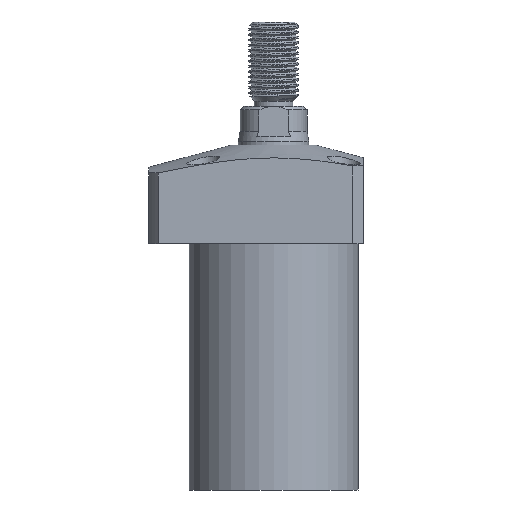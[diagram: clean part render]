
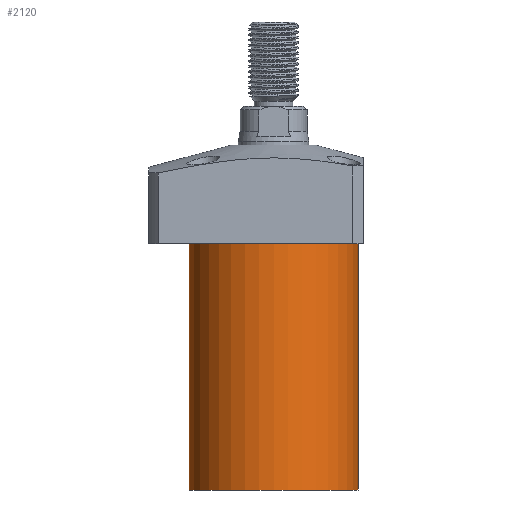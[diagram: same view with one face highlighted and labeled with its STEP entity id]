
A CAD part, front view. The second image highlights one B-rep face of the part: STEP entity #2120.
In plain terms, the highlighted cylindrical face has radius 24 mm (diameter 48 mm), a partial arc.
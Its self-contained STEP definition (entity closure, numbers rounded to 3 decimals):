
#21 = EDGE_CURVE ( 'NONE', #3575, #3759, #440, .T. ) ;
#83 = AXIS2_PLACEMENT_3D ( 'NONE', #3033, #652, #3085 ) ;
#258 = CARTESIAN_POINT ( 'NONE',  ( 24., 0., -84. ) ) ;
#317 = EDGE_LOOP ( 'NONE', ( #4966, #4312, #2981, #4641 ) ) ;
#440 = CIRCLE ( 'NONE', #576, 24. ) ;
#535 = DIRECTION ( 'NONE',  ( -1., 0., 0. ) ) ;
#554 = VECTOR ( 'NONE', #4699, 1000. ) ;
#576 = AXIS2_PLACEMENT_3D ( 'NONE', #1334, #2576, #535 ) ;
#652 = DIRECTION ( 'NONE',  ( 0., 0., -1. ) ) ;
#958 = CARTESIAN_POINT ( 'NONE',  ( 0., 0., -84. ) ) ;
#967 = EDGE_CURVE ( 'NONE', #3575, #3578, #4884, .T. ) ;
#1014 = EDGE_CURVE ( 'NONE', #3578, #4470, #2538, .T. ) ;
#1255 = CARTESIAN_POINT ( 'NONE',  ( -24., 0., -84. ) ) ;
#1334 = CARTESIAN_POINT ( 'NONE',  ( 0., 0., -84. ) ) ;
#1983 = EDGE_CURVE ( 'NONE', #3759, #4470, #4661, .T. ) ;
#2120 = ADVANCED_FACE ( 'NONE', ( #4417 ), #4324, .T. ) ;
#2143 = CARTESIAN_POINT ( 'NONE',  ( -24., 0., -84. ) ) ;
#2390 = CARTESIAN_POINT ( 'NONE',  ( 24., 0., -14. ) ) ;
#2538 = CIRCLE ( 'NONE', #83, 24. ) ;
#2576 = DIRECTION ( 'NONE',  ( 0., 0., -1. ) ) ;
#2596 = CARTESIAN_POINT ( 'NONE',  ( -24., 0., -14. ) ) ;
#2813 = CARTESIAN_POINT ( 'NONE',  ( 24., 0., -84. ) ) ;
#2981 = ORIENTED_EDGE ( 'NONE', *, *, #967, .T. ) ;
#3033 = CARTESIAN_POINT ( 'NONE',  ( 0., 0., -14. ) ) ;
#3067 = VECTOR ( 'NONE', #4064, 1000. ) ;
#3085 = DIRECTION ( 'NONE',  ( 1., 0., 0. ) ) ;
#3178 = AXIS2_PLACEMENT_3D ( 'NONE', #958, #5003, #3761 ) ;
#3575 = VERTEX_POINT ( 'NONE', #2813 ) ;
#3578 = VERTEX_POINT ( 'NONE', #2390 ) ;
#3759 = VERTEX_POINT ( 'NONE', #2143 ) ;
#3761 = DIRECTION ( 'NONE',  ( 1., 0., 0. ) ) ;
#4064 = DIRECTION ( 'NONE',  ( 0., 0., 1. ) ) ;
#4312 = ORIENTED_EDGE ( 'NONE', *, *, #21, .F. ) ;
#4324 = CYLINDRICAL_SURFACE ( 'NONE', #3178, 24. ) ;
#4417 = FACE_OUTER_BOUND ( 'NONE', #317, .T. ) ;
#4470 = VERTEX_POINT ( 'NONE', #2596 ) ;
#4641 = ORIENTED_EDGE ( 'NONE', *, *, #1014, .T. ) ;
#4661 = LINE ( 'NONE', #1255, #3067 ) ;
#4699 = DIRECTION ( 'NONE',  ( 0., 0., 1. ) ) ;
#4884 = LINE ( 'NONE', #258, #554 ) ;
#4966 = ORIENTED_EDGE ( 'NONE', *, *, #1983, .F. ) ;
#5003 = DIRECTION ( 'NONE',  ( 0., 0., 1. ) ) ;
